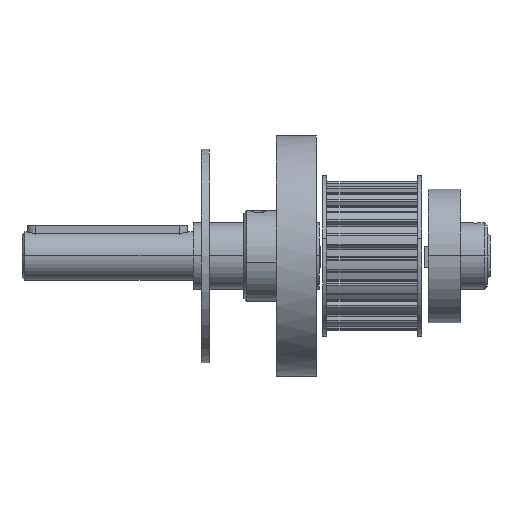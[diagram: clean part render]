
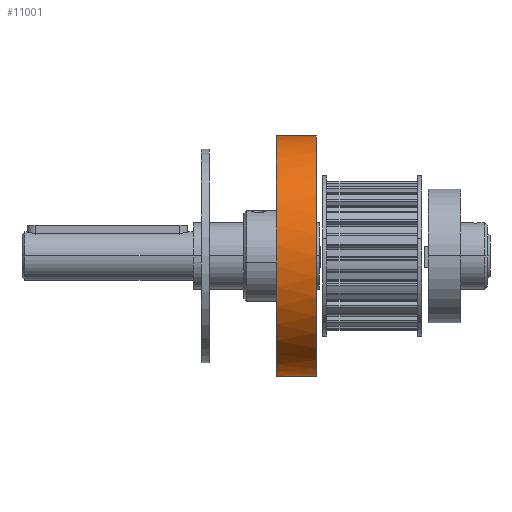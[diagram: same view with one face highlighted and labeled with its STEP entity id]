
A CAD part, top view. The second image highlights one B-rep face of the part: STEP entity #11001.
In plain terms, the highlighted cylindrical face has radius 45 mm (diameter 90 mm), a partial arc.
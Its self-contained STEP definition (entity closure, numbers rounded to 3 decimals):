
#702 = EDGE_CURVE ( 'NONE', #5551, #5388, #3708, .T. ) ;
#708 = EDGE_CURVE ( 'NONE', #5551, #5810, #3790, .T. ) ;
#740 = EDGE_CURVE ( 'NONE', #8828, #7869, #3917, .T. ) ;
#1055 = CARTESIAN_POINT ( 'NONE',  ( -124.451, -44.837, -391.835 ) ) ;
#1332 = DIRECTION ( 'NONE',  ( -1., 0., 0. ) ) ;
#1601 = DIRECTION ( 'NONE',  ( -1., 0., 0. ) ) ;
#1700 = CARTESIAN_POINT ( 'NONE',  ( -124.451, -22.337, -352.864 ) ) ;
#1814 = DIRECTION ( 'NONE',  ( 0., 0., -1. ) ) ;
#2165 = CARTESIAN_POINT ( 'NONE',  ( -124.451, 4.254, -389.167 ) ) ;
#2247 = DIRECTION ( 'NONE',  ( -1., 0., 0. ) ) ;
#2629 = AXIS2_PLACEMENT_3D ( 'NONE', #10315, #10244, #10678 ) ;
#2764 = AXIS2_PLACEMENT_3D ( 'NONE', #12270, #12283, #12614 ) ;
#3618 = VECTOR ( 'NONE', #12402, 1000. ) ;
#3708 = LINE ( 'NONE', #12298, #3618 ) ;
#3790 = CIRCLE ( 'NONE', #2764, 45. ) ;
#3917 = CIRCLE ( 'NONE', #2629, 45. ) ;
#4202 = LINE ( 'NONE', #1055, #4276 ) ;
#4276 = VECTOR ( 'NONE', #1332, 1000. ) ;
#4382 = CIRCLE ( 'NONE', #9561, 45. ) ;
#4601 = CIRCLE ( 'NONE', #9525, 45. ) ;
#4618 = DIRECTION ( 'NONE',  ( 0., 0., -1. ) ) ;
#4771 = CARTESIAN_POINT ( 'NONE',  ( -125.951, -22.337, -352.864 ) ) ;
#4795 = CARTESIAN_POINT ( 'NONE',  ( -125.951, -22.337, -352.864 ) ) ;
#4843 = DIRECTION ( 'NONE',  ( 1., 0., 0. ) ) ;
#4859 = DIRECTION ( 'NONE',  ( 1., 0., 0. ) ) ;
#4879 = DIRECTION ( 'NONE',  ( 0., 0., -1. ) ) ;
#5184 = VERTEX_POINT ( 'NONE', #10492 ) ;
#5388 = VERTEX_POINT ( 'NONE', #10461 ) ;
#5391 = VERTEX_POINT ( 'NONE', #10391 ) ;
#5551 = VERTEX_POINT ( 'NONE', #10245 ) ;
#5561 = VERTEX_POINT ( 'NONE', #10312 ) ;
#5810 = VERTEX_POINT ( 'NONE', #10251 ) ;
#6124 = DIRECTION ( 'NONE',  ( -1., 0., 0. ) ) ;
#6190 = CARTESIAN_POINT ( 'NONE',  ( -124.451, 0.163, -391.835 ) ) ;
#6446 = CARTESIAN_POINT ( 'NONE',  ( -124.451, -44.837, -391.835 ) ) ;
#6793 = ORIENTED_EDGE ( 'NONE', *, *, #708, .F. ) ;
#6819 = ORIENTED_EDGE ( 'NONE', *, *, #740, .T. ) ;
#6958 = ORIENTED_EDGE ( 'NONE', *, *, #14188, .T. ) ;
#7120 = ORIENTED_EDGE ( 'NONE', *, *, #13774, .T. ) ;
#7277 = ORIENTED_EDGE ( 'NONE', *, *, #13515, .F. ) ;
#7307 = ORIENTED_EDGE ( 'NONE', *, *, #702, .T. ) ;
#7387 = ORIENTED_EDGE ( 'NONE', *, *, #13671, .T. ) ;
#7401 = ORIENTED_EDGE ( 'NONE', *, *, #14073, .T. ) ;
#7869 = VERTEX_POINT ( 'NONE', #10262 ) ;
#8828 = VERTEX_POINT ( 'NONE', #6446 ) ;
#8857 = CYLINDRICAL_SURFACE ( 'NONE', #9710, 45. ) ;
#9004 = FACE_OUTER_BOUND ( 'NONE', #13109, .T. ) ;
#9525 = AXIS2_PLACEMENT_3D ( 'NONE', #4795, #4843, #4618 ) ;
#9561 = AXIS2_PLACEMENT_3D ( 'NONE', #4771, #4859, #4879 ) ;
#9710 = AXIS2_PLACEMENT_3D ( 'NONE', #1700, #1601, #1814 ) ;
#10244 = DIRECTION ( 'NONE',  ( -1., 0., 0. ) ) ;
#10245 = CARTESIAN_POINT ( 'NONE',  ( -139.451, -48.928, -389.167 ) ) ;
#10251 = CARTESIAN_POINT ( 'NONE',  ( -139.451, 4.254, -389.167 ) ) ;
#10262 = CARTESIAN_POINT ( 'NONE',  ( -124.451, 0.163, -391.835 ) ) ;
#10312 = CARTESIAN_POINT ( 'NONE',  ( -125.951, -44.837, -391.835 ) ) ;
#10315 = CARTESIAN_POINT ( 'NONE',  ( -124.451, -22.337, -352.864 ) ) ;
#10391 = CARTESIAN_POINT ( 'NONE',  ( -125.951, 4.254, -389.167 ) ) ;
#10461 = CARTESIAN_POINT ( 'NONE',  ( -125.951, -48.928, -389.167 ) ) ;
#10492 = CARTESIAN_POINT ( 'NONE',  ( -125.951, 0.163, -391.835 ) ) ;
#10678 = DIRECTION ( 'NONE',  ( 0., 0., -1. ) ) ;
#11001 = ADVANCED_FACE ( 'NONE', ( #9004 ), #8857, .T. ) ;
#11678 = LINE ( 'NONE', #6190, #12013 ) ;
#12013 = VECTOR ( 'NONE', #6124, 1000. ) ;
#12050 = VECTOR ( 'NONE', #2247, 1000. ) ;
#12127 = LINE ( 'NONE', #2165, #12050 ) ;
#12270 = CARTESIAN_POINT ( 'NONE',  ( -139.451, -22.337, -352.864 ) ) ;
#12283 = DIRECTION ( 'NONE',  ( -1., 0., 0. ) ) ;
#12298 = CARTESIAN_POINT ( 'NONE',  ( -124.451, -48.928, -389.167 ) ) ;
#12402 = DIRECTION ( 'NONE',  ( 1., 0., 0. ) ) ;
#12614 = DIRECTION ( 'NONE',  ( 0., 0., -1. ) ) ;
#13109 = EDGE_LOOP ( 'NONE', ( #7387, #7401, #6793, #7307, #7120, #7277, #6819, #6958 ) ) ;
#13515 = EDGE_CURVE ( 'NONE', #8828, #5561, #4202, .T. ) ;
#13671 = EDGE_CURVE ( 'NONE', #5184, #5391, #4601, .T. ) ;
#13774 = EDGE_CURVE ( 'NONE', #5388, #5561, #4382, .T. ) ;
#14073 = EDGE_CURVE ( 'NONE', #5391, #5810, #12127, .T. ) ;
#14188 = EDGE_CURVE ( 'NONE', #7869, #5184, #11678, .T. ) ;
